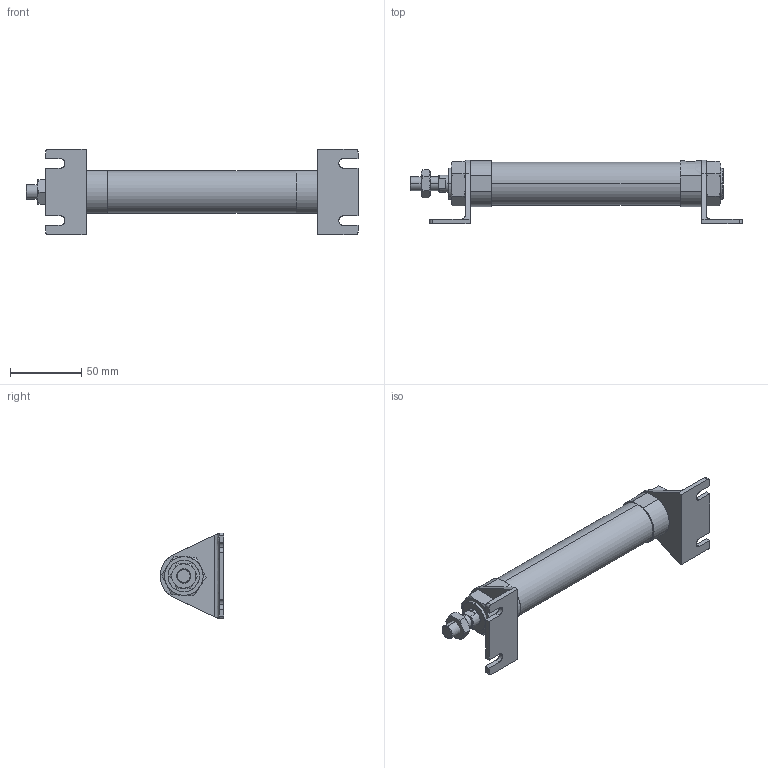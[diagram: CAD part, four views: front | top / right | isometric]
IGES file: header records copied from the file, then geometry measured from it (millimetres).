
Start section: SolidWorks IGES file using analytic representation for surfaces
Global section: file name: C:\Users\Toshiba\Desktop\J#1-25-50-L.IGS; native system: SolidWorks 2014; preprocessor: SolidWorks 2014; author: Toshiba; date: 160310.084645; units: millimetre
Bounding box: 232.2 x 44.5 x 60 mm (x, y, z)
Surface area: 38893.3 mm2 (no closed solid volume)
Topology: 0 solids, 0 shells, 167 faces, 2718 edges, 2716 vertices
Faces by surface type: bspline 111, revolution 56
